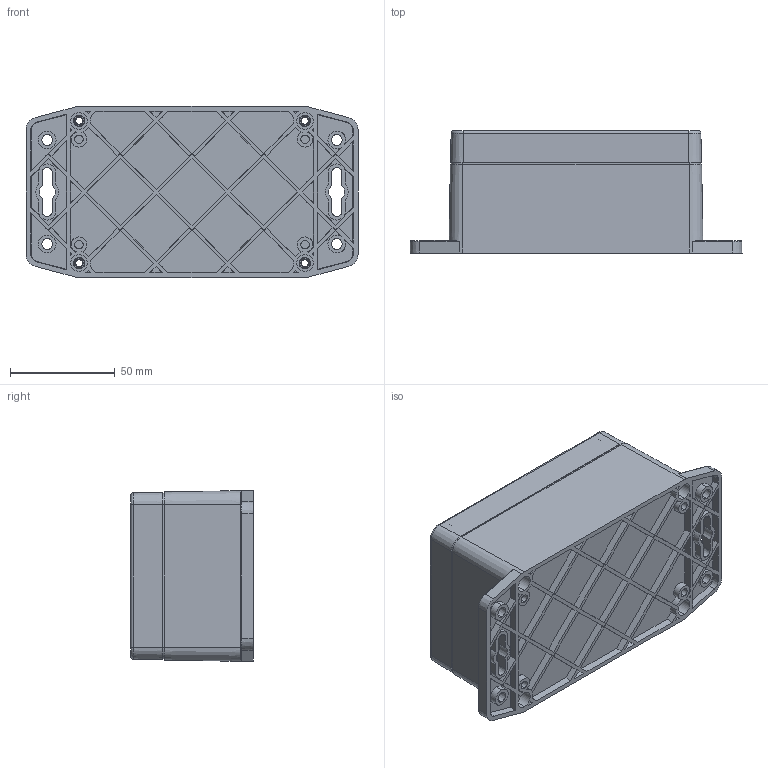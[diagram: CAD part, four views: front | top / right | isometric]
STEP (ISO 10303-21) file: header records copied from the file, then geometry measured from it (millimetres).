
FILE_DESCRIPTION (( 'STEP AP203' ), '1' );
FILE_NAME ('PF214.STEP', '2020-02-19T13:55:07', ( '' ), ( '' ), 'SwSTEP 2.0', 'SolidWorks 2020', '' );
FILE_SCHEMA (( 'CONFIG_CONTROL_DESIGN' ));
Length unit declared in the file: millimetre
Products named in the file (4): PF214
Assembly tree (3 placements, depth 2):
  PF214
    PF214
    PF214
    PF214
Bounding box: 158.7 x 58.5 x 81.82 mm (x, y, z)
Volume: 165044 mm3; surface area: 126677.1 mm2
Topology: 7 solids, 7 shells, 1408 faces, 3674 edges, 2350 vertices
Faces by surface type: plane 528, cylinder 356, bspline 260, cone 238, torus 26
Entity records: 47386 total; most frequent: CARTESIAN_POINT 13968, ORIENTED_EDGE 7276, DIRECTION 6342, EDGE_CURVE 3638, VERTEX_POINT 2350, AXIS2_PLACEMENT_3D 2282, LINE 1778, VECTOR 1778
